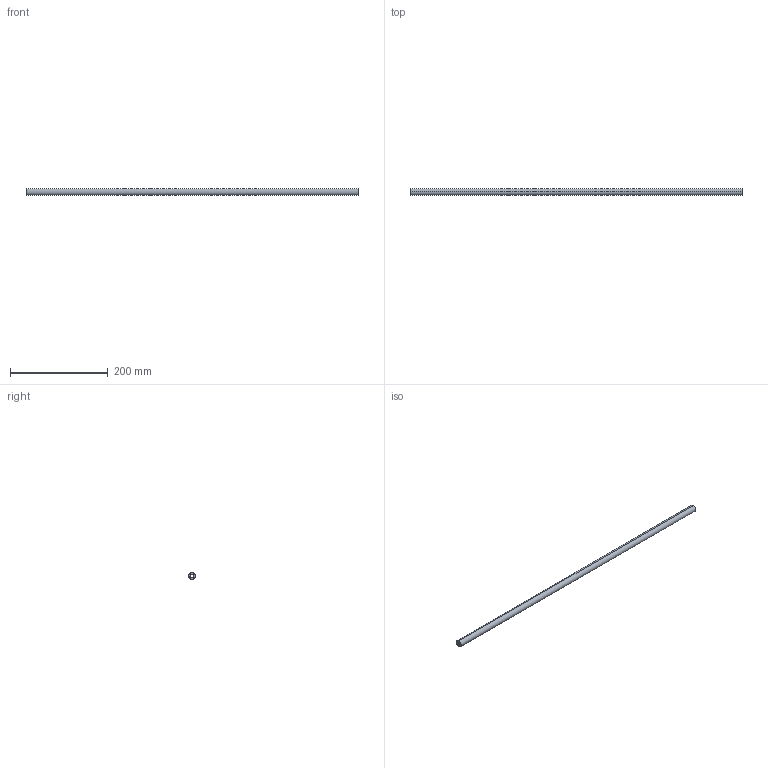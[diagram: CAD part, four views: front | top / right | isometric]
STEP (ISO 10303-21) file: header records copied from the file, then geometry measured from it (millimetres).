
FILE_DESCRIPTION (( 'STEP AP214' ), '1' );
FILE_NAME ('SyncronisationsstangeNova_Pro_KAB_0800_KS16.step', '2009-11-24T08:53:17', ( 'Grass' ), ( 'Grass GmbH' ), 'SwSTEP 2.0', 'SolidWorks 2009', '' );
FILE_SCHEMA (( 'AUTOMOTIVE_DESIGN' ));
Length unit declared in the file: millimetre
Products named in the file (1): SyncronisationsstangeNova_Pro_KAB_0800_KS16
Bounding box: 679 x 14 x 14 mm (x, y, z)
Volume: 73420.1 mm3; surface area: 47381.7 mm2
Topology: 1 solids, 1 shells, 15 faces, 39 edges, 26 vertices
Faces by surface type: cylinder 11, plane 4
Entity records: 513 total; most frequent: DIRECTION 93, CARTESIAN_POINT 81, ORIENTED_EDGE 78, EDGE_CURVE 39, AXIS2_PLACEMENT_3D 38, VERTEX_POINT 26, CIRCLE 22, VECTOR 17
